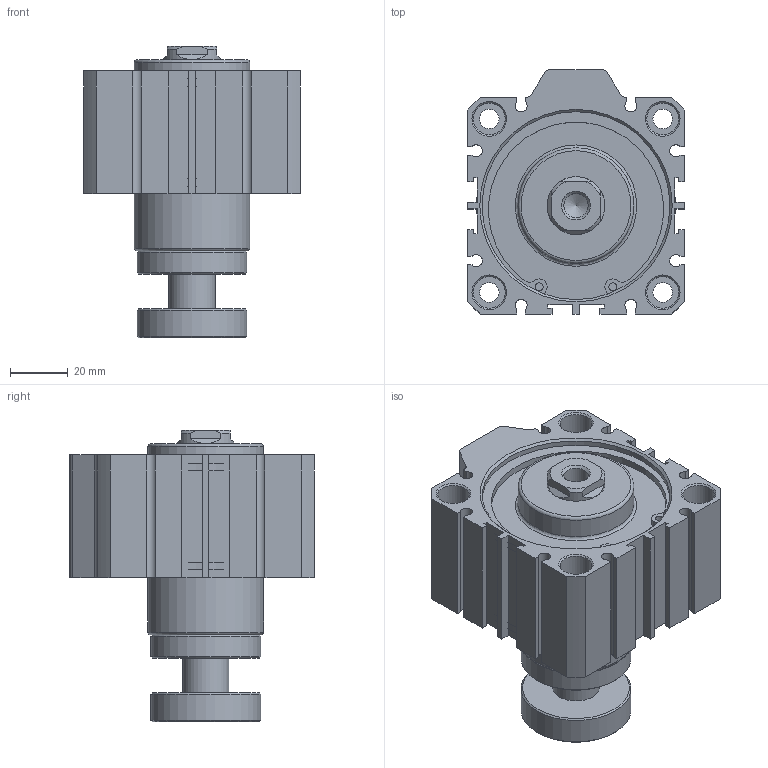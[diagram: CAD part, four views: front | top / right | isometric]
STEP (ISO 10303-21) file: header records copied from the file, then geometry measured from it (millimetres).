
FILE_DESCRIPTION((''),'2;1');
FILE_NAME('I:\3D電子目錄\氣缸\JDAR\JDAR\JDAR63\JDAR63x10.stp','2007-03-14T11:49:15',('662F206'),(''),'Autodesk Inventor 11','Autodesk Inventor 11','');
FILE_SCHEMA(('AUTOMOTIVE_DESIGN { 1 0 10303 214 1 1 1 1 }'));
Length unit declared in the file: millimetre
Products named in the file (3): JDAR63; R 形環 65
Assembly tree (3 placements, depth 2):
  JDAR63
    JDAR63
    R 形環 65  x2
Bounding box: 75 x 84.5 x 100.8 mm (x, y, z)
Volume: 256014.7 mm3; surface area: 52327.8 mm2
Topology: 3 solids, 3 shells, 197 faces, 484 edges, 317 vertices
Faces by surface type: plane 110, cylinder 58, cone 23, bspline 4, torus 2
Full cylindrical faces by diameter (mm): 2.7 x4, 3 x2, 6.8 x4, 11 x8, 16 x1, 20 x1, 38 x2, 40 x2, 65 x4, 68 x2
Entity records: 5335 total; most frequent: CARTESIAN_POINT 1013, DIRECTION 898, ORIENTED_EDGE 788, EDGE_CURVE 394, AXIS2_PLACEMENT_3D 325, VERTEX_POINT 290, EDGE_LOOP 274, VECTOR 248
